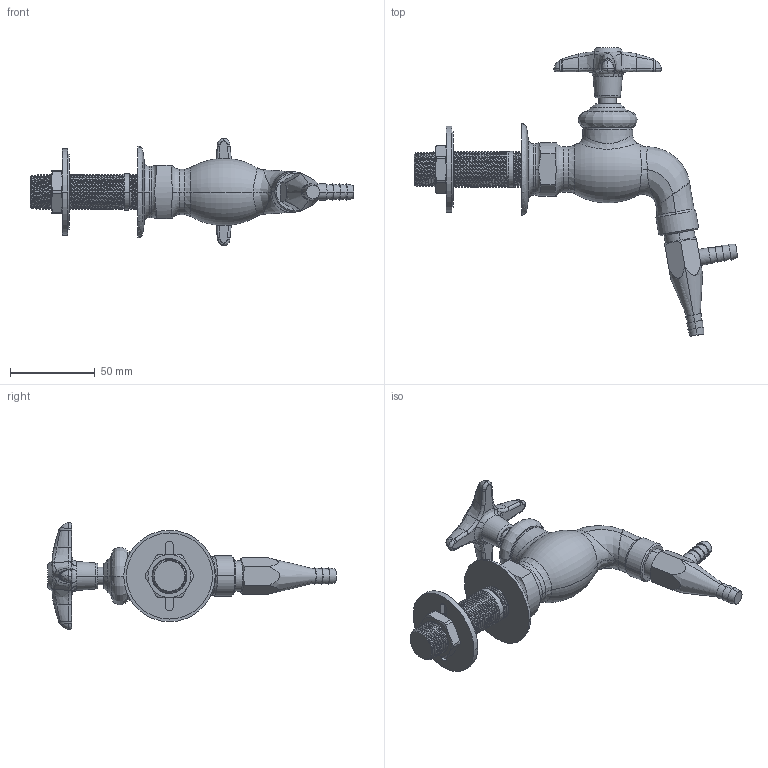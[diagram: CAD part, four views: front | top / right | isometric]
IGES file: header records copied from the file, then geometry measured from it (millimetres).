
Start section:  PTC IGES file: LWV4-A33.igs
Global section: file name: LWV4-A33.igs; native system: Creo Parametric by PTC Inc.; preprocessor: 2014500; author: usch_engrender; organization: Unknown; date: 20150915.131156; units: inch
Bounding box: 191.19 x 170.46 x 63.42 mm (x, y, z)
Volume: 161858.6 mm3; surface area: 36859.5 mm2
Topology: 1 solids, 3 shells, 413 faces, 998 edges, 607 vertices
Faces by surface type: bspline 241, revolution 172
